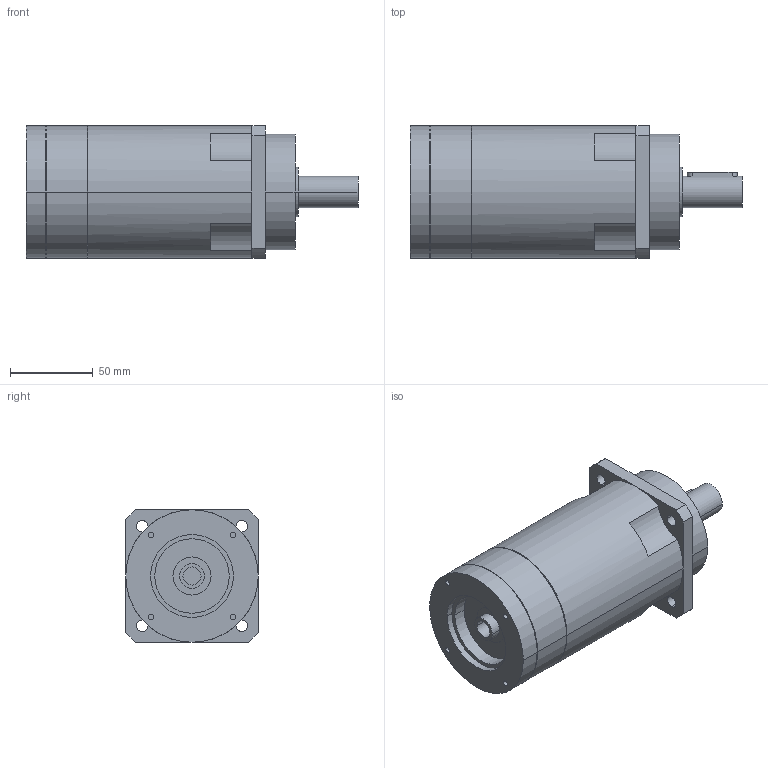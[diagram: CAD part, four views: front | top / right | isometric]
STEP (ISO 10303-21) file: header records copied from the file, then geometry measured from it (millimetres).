
FILE_DESCRIPTION(('CoCreate Modeling STEP Export'),'2;1');
FILE_NAME('GPR100_ig-48-64-80-100-120-144-180-216_19_B5_11_P22.stp','2014-08-26T11:53:07',(''),(''),'CoCreate Modeling STEP processor for AP214 (Solid Model)','CoCreate Modeling 16.00C 25-Feb-2009 (C) Parametric Technology GmbH','');
FILE_SCHEMA(('AUTOMOTIVE_DESIGN { 1 0 10303 214 1 1 1 1 }'));
Length unit declared in the file: millimetre
Products named in the file (2): GPR100_ig-48-64-80-100-120-144-180-216_19_B5_11_P22
Assembly tree (1 placements, depth 2):
  GPR100_ig-48-64-80-100-120-144-180-216_19_B5_11_P22
    GPR100_ig-48-64-80-100-120-144-180-216_19_B5_11_P22
Bounding box: 200.4 x 80 x 80 mm (x, y, z)
Volume: 785656.6 mm3; surface area: 60746.7 mm2
Topology: 1 solids, 1 shells, 87 faces, 222 edges, 150 vertices
Faces by surface type: cylinder 50, plane 31, cone 6
Entity records: 2364 total; most frequent: ORIENTED_EDGE 440, CARTESIAN_POINT 428, DIRECTION 346, EDGE_CURVE 220, VERTEX_POINT 150, AXIS2_PLACEMENT_3D 132, EDGE_LOOP 110, FACE_OUTER_BOUND 87
